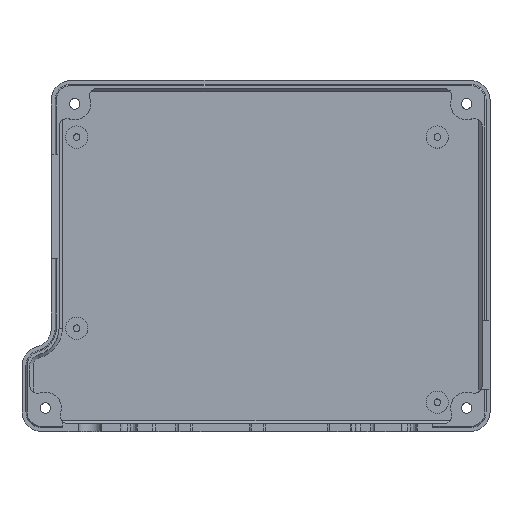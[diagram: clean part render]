
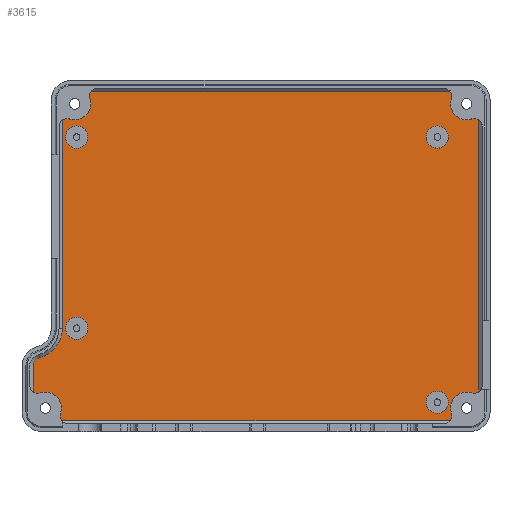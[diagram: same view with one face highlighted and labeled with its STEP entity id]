
A CAD part, top view. The second image highlights one B-rep face of the part: STEP entity #3615.
In plain terms, the highlighted planar face has unit normal (0, 0, 1).
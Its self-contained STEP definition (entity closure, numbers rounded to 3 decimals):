
#755=CARTESIAN_POINT('',(49.858,-38.672,-10.));
#767=DIRECTION('',(-1.,0.,0.));
#768=VECTOR('',#767,99.716);
#769=CARTESIAN_POINT('',(49.858,-38.672,-10.));
#770=LINE('',#769,#768);
#785=CARTESIAN_POINT('',(56.,36.737,-10.));
#786=DIRECTION('',(0.,0.,1.));
#787=DIRECTION('',(0.586,0.81,0.));
#788=AXIS2_PLACEMENT_3D('',#785,#786,#787);
#790=CARTESIAN_POINT('',(56.,-29.737,-10.));
#791=DIRECTION('',(0.,0.,1.));
#792=DIRECTION('',(-0.328,-0.945,0.));
#793=AXIS2_PLACEMENT_3D('',#790,#791,#792);
#795=CARTESIAN_POINT('',(48.237,-37.5,-10.));
#796=DIRECTION('',(0.,0.,1.));
#797=DIRECTION('',(0.81,-0.586,0.));
#798=AXIS2_PLACEMENT_3D('',#795,#796,#797);
#800=CARTESIAN_POINT('',(-48.237,-37.5,-10.));
#801=DIRECTION('',(0.,0.,1.));
#802=DIRECTION('',(-0.945,0.328,0.));
#803=AXIS2_PLACEMENT_3D('',#800,#801,#802);
#805=CARTESIAN_POINT('',(-56.,-29.737,-10.));
#806=DIRECTION('',(0.,0.,1.));
#807=DIRECTION('',(-0.586,-0.81,0.));
#808=AXIS2_PLACEMENT_3D('',#805,#806,#807);
#810=CARTESIAN_POINT('',(-48.5,36.737,-10.));
#811=DIRECTION('',(0.,0.,1.));
#812=DIRECTION('',(0.328,0.945,0.));
#813=AXIS2_PLACEMENT_3D('',#810,#811,#812);
#815=CARTESIAN_POINT('',(-40.739,44.5,-10.));
#816=DIRECTION('',(0.,0.,1.));
#817=DIRECTION('',(-0.81,0.586,0.));
#818=AXIS2_PLACEMENT_3D('',#815,#816,#817);
#820=CARTESIAN_POINT('',(48.237,44.5,-10.));
#821=DIRECTION('',(0.,0.,1.));
#822=DIRECTION('',(0.945,-0.328,0.));
#823=AXIS2_PLACEMENT_3D('',#820,#821,#822);
#825=CARTESIAN_POINT('',(46.5,-34.,-10.));
#826=DIRECTION('',(0.,0.,1.));
#827=DIRECTION('',(1.,0.,0.));
#828=AXIS2_PLACEMENT_3D('',#825,#826,#827);
#830=CARTESIAN_POINT('',(46.5,-34.,-10.));
#831=DIRECTION('',(0.,0.,1.));
#832=DIRECTION('',(-1.,0.,0.));
#833=AXIS2_PLACEMENT_3D('',#830,#831,#832);
#845=CARTESIAN_POINT('',(46.5,34.,-10.));
#846=DIRECTION('',(0.,0.,1.));
#847=DIRECTION('',(1.,0.,0.));
#848=AXIS2_PLACEMENT_3D('',#845,#846,#847);
#850=CARTESIAN_POINT('',(46.5,34.,-10.));
#851=DIRECTION('',(0.,0.,1.));
#852=DIRECTION('',(-1.,0.,0.));
#853=AXIS2_PLACEMENT_3D('',#850,#851,#852);
#865=CARTESIAN_POINT('',(-46.,33.986,-10.));
#866=DIRECTION('',(0.,0.,1.));
#867=DIRECTION('',(1.,0.,0.));
#868=AXIS2_PLACEMENT_3D('',#865,#866,#867);
#870=CARTESIAN_POINT('',(-46.,33.986,-10.));
#871=DIRECTION('',(0.,0.,1.));
#872=DIRECTION('',(-1.,0.,0.));
#873=AXIS2_PLACEMENT_3D('',#870,#871,#872);
#885=CARTESIAN_POINT('',(-46.,-15.014,-10.));
#886=DIRECTION('',(0.,0.,1.));
#887=DIRECTION('',(1.,0.,0.));
#888=AXIS2_PLACEMENT_3D('',#885,#886,#887);
#890=CARTESIAN_POINT('',(-46.,-15.014,-10.));
#891=DIRECTION('',(0.,0.,1.));
#892=DIRECTION('',(-1.,0.,0.));
#893=AXIS2_PLACEMENT_3D('',#890,#891,#892);
#1438=DIRECTION('',(0.,1.,0.));
#1439=VECTOR('',#1438,53.358);
#1440=CARTESIAN_POINT('',(-49.672,-15.,-10.));
#1441=LINE('',#1440,#1439);
#1455=CARTESIAN_POINT('',(-57.5,-15.,-10.));
#1456=DIRECTION('',(0.,0.,-1.));
#1457=DIRECTION('',(1.,0.,0.));
#1458=AXIS2_PLACEMENT_3D('',#1455,#1456,#1457);
#1485=CARTESIAN_POINT('',(-57.172,-31.358,-10.));
#1491=DIRECTION('',(0.,1.,0.));
#1492=VECTOR('',#1491,6.676);
#1493=CARTESIAN_POINT('',(-57.172,-31.358,-10.));
#1494=LINE('',#1493,#1492);
#1495=CARTESIAN_POINT('',(-55.,-24.682,-10.));
#1496=DIRECTION('',(0.,0.,-1.));
#1497=DIRECTION('',(-1.,0.,0.));
#1498=AXIS2_PLACEMENT_3D('',#1495,#1496,#1497);
#1522=CARTESIAN_POINT('',(-54.,-35.5,-10.));
#1523=DIRECTION('',(0.,0.,-1.));
#1524=DIRECTION('',(-0.328,0.945,0.));
#1525=AXIS2_PLACEMENT_3D('',#1522,#1523,#1524);
#1531=CARTESIAN_POINT('',(-46.502,42.5,-10.));
#1532=DIRECTION('',(0.,0.,-1.));
#1533=DIRECTION('',(0.945,0.328,0.));
#1534=AXIS2_PLACEMENT_3D('',#1531,#1532,#1533);
#1569=DIRECTION('',(1.,0.,0.));
#1570=VECTOR('',#1569,92.218);
#1571=CARTESIAN_POINT('',(-42.36,45.672,-10.));
#1572=LINE('',#1571,#1570);
#1577=CARTESIAN_POINT('',(-42.36,45.672,-10.));
#1587=CARTESIAN_POINT('',(54.,42.5,-10.));
#1588=DIRECTION('',(0.,0.,-1.));
#1589=DIRECTION('',(0.328,-0.945,0.));
#1590=AXIS2_PLACEMENT_3D('',#1587,#1588,#1589);
#1789=CARTESIAN_POINT('',(54.,-35.5,-10.));
#1790=DIRECTION('',(0.,0.,-1.));
#1791=DIRECTION('',(-0.945,-0.328,0.));
#1792=AXIS2_PLACEMENT_3D('',#1789,#1790,#1791);
#1798=CARTESIAN_POINT('',(57.172,38.358,-10.));
#1810=DIRECTION('',(0.,-1.,0.));
#1811=VECTOR('',#1810,69.716);
#1812=CARTESIAN_POINT('',(57.172,38.358,-10.));
#1813=LINE('',#1812,#1811);
#2554=VERTEX_POINT('',#1798);
#2555=CARTESIAN_POINT('',(55.344,38.627,-10.));
#2556=VERTEX_POINT('',#2555);
#2559=CARTESIAN_POINT('',(50.127,43.844,-10.));
#2560=CARTESIAN_POINT('',(49.858,45.672,-10.));
#2561=VERTEX_POINT('',#2559);
#2562=VERTEX_POINT('',#2560);
#2568=CARTESIAN_POINT('',(55.344,-31.627,-10.));
#2569=CARTESIAN_POINT('',(57.172,-31.358,-10.));
#2570=VERTEX_POINT('',#2568);
#2571=VERTEX_POINT('',#2569);
#2579=VERTEX_POINT('',#755);
#2580=CARTESIAN_POINT('',(50.127,-36.844,-10.));
#2581=VERTEX_POINT('',#2580);
#2584=CARTESIAN_POINT('',(-50.127,-36.844,-10.));
#2585=CARTESIAN_POINT('',(-49.858,-38.672,-10.));
#2586=VERTEX_POINT('',#2584);
#2587=VERTEX_POINT('',#2585);
#2597=VERTEX_POINT('',#1485);
#2598=CARTESIAN_POINT('',(-55.344,-31.627,-10.));
#2599=VERTEX_POINT('',#2598);
#2606=VERTEX_POINT('',#1577);
#2607=CARTESIAN_POINT('',(-42.628,43.844,-10.));
#2608=VERTEX_POINT('',#2607);
#2613=CARTESIAN_POINT('',(-57.172,-24.682,-10.));
#2614=VERTEX_POINT('',#2613);
#2617=CARTESIAN_POINT('',(-47.845,38.626,-10.));
#2618=VERTEX_POINT('',#2617);
#2957=CARTESIAN_POINT('',(49.35,-34.,-10.));
#2958=CARTESIAN_POINT('',(43.65,-34.,-10.));
#2959=VERTEX_POINT('',#2957);
#2960=VERTEX_POINT('',#2958);
#2965=CARTESIAN_POINT('',(49.35,34.,-10.));
#2966=CARTESIAN_POINT('',(43.65,34.,-10.));
#2967=VERTEX_POINT('',#2965);
#2968=VERTEX_POINT('',#2966);
#2973=CARTESIAN_POINT('',(-43.15,33.986,-10.));
#2974=CARTESIAN_POINT('',(-48.85,33.986,-10.));
#2975=VERTEX_POINT('',#2973);
#2976=VERTEX_POINT('',#2974);
#2981=CARTESIAN_POINT('',(-43.15,-15.014,-10.));
#2982=CARTESIAN_POINT('',(-48.85,-15.014,-10.));
#2983=VERTEX_POINT('',#2981);
#2984=VERTEX_POINT('',#2982);
#3033=CARTESIAN_POINT('',(-49.672,-15.,-10.));
#3034=CARTESIAN_POINT('',(-55.543,-22.58,-10.));
#3035=VERTEX_POINT('',#3033);
#3036=VERTEX_POINT('',#3034);
#3059=CARTESIAN_POINT('',(-49.672,38.358,-10.));
#3060=VERTEX_POINT('',#3059);
#3549=CARTESIAN_POINT('',(0.,0.,-10.));
#3550=DIRECTION('',(0.,0.,1.));
#3551=DIRECTION('',(-1.,0.,0.));
#3552=AXIS2_PLACEMENT_3D('',#3549,#3550,#3551);
#3553=PLANE('',#3552);
#3555=ORIENTED_EDGE('',*,*,#3554,.F.);
#3557=ORIENTED_EDGE('',*,*,#3556,.T.);
#3559=ORIENTED_EDGE('',*,*,#3558,.F.);
#3561=ORIENTED_EDGE('',*,*,#3560,.F.);
#3562=ORIENTED_EDGE('',*,*,#3507,.F.);
#3563=ORIENTED_EDGE('',*,*,#3525,.T.);
#3564=ORIENTED_EDGE('',*,*,#3535,.F.);
#3566=ORIENTED_EDGE('',*,*,#3565,.F.);
#3568=ORIENTED_EDGE('',*,*,#3567,.F.);
#3570=ORIENTED_EDGE('',*,*,#3569,.T.);
#3572=ORIENTED_EDGE('',*,*,#3571,.T.);
#3574=ORIENTED_EDGE('',*,*,#3573,.F.);
#3576=ORIENTED_EDGE('',*,*,#3575,.T.);
#3578=ORIENTED_EDGE('',*,*,#3577,.F.);
#3580=ORIENTED_EDGE('',*,*,#3579,.F.);
#3582=ORIENTED_EDGE('',*,*,#3581,.F.);
#3584=ORIENTED_EDGE('',*,*,#3583,.T.);
#3586=ORIENTED_EDGE('',*,*,#3585,.F.);
#3588=ORIENTED_EDGE('',*,*,#3587,.F.);
#3589=EDGE_LOOP('',(#3555,#3557,#3559,#3561,#3562,#3563,#3564,#3566,#3568,#3570,
#3572,#3574,#3576,#3578,#3580,#3582,#3584,#3586,#3588));
#3590=FACE_OUTER_BOUND('',#3589,.F.);
#3592=ORIENTED_EDGE('',*,*,#3591,.T.);
#3594=ORIENTED_EDGE('',*,*,#3593,.T.);
#3595=EDGE_LOOP('',(#3592,#3594));
#3596=FACE_BOUND('',#3595,.F.);
#3598=ORIENTED_EDGE('',*,*,#3597,.T.);
#3600=ORIENTED_EDGE('',*,*,#3599,.T.);
#3601=EDGE_LOOP('',(#3598,#3600));
#3602=FACE_BOUND('',#3601,.F.);
#3604=ORIENTED_EDGE('',*,*,#3603,.T.);
#3606=ORIENTED_EDGE('',*,*,#3605,.T.);
#3607=EDGE_LOOP('',(#3604,#3606));
#3608=FACE_BOUND('',#3607,.F.);
#3610=ORIENTED_EDGE('',*,*,#3609,.T.);
#3612=ORIENTED_EDGE('',*,*,#3611,.T.);
#3613=EDGE_LOOP('',(#3610,#3612));
#3614=FACE_BOUND('',#3613,.F.);
#789=CIRCLE('',#788,2.);
#794=CIRCLE('',#793,2.);
#799=CIRCLE('',#798,2.);
#804=CIRCLE('',#803,2.);
#809=CIRCLE('',#808,2.);
#814=CIRCLE('',#813,2.);
#819=CIRCLE('',#818,2.);
#824=CIRCLE('',#823,2.);
#829=CIRCLE('',#828,2.85);
#834=CIRCLE('',#833,2.85);
#849=CIRCLE('',#848,2.85);
#854=CIRCLE('',#853,2.85);
#869=CIRCLE('',#868,2.85);
#874=CIRCLE('',#873,2.85);
#889=CIRCLE('',#888,2.85);
#894=CIRCLE('',#893,2.85);
#1459=CIRCLE('',#1458,7.828);
#1499=CIRCLE('',#1498,2.172);
#1526=CIRCLE('',#1525,4.1);
#1535=CIRCLE('',#1534,4.1);
#1591=CIRCLE('',#1590,4.1);
#1793=CIRCLE('',#1792,4.1);
#3507=EDGE_CURVE('',#2579,#2581,#799,.T.);
#3525=EDGE_CURVE('',#2579,#2587,#770,.T.);
#3535=EDGE_CURVE('',#2586,#2587,#804,.T.);
#3554=EDGE_CURVE('',#2554,#2556,#789,.T.);
#3556=EDGE_CURVE('',#2554,#2571,#1813,.T.);
#3558=EDGE_CURVE('',#2570,#2571,#794,.T.);
#3560=EDGE_CURVE('',#2581,#2570,#1793,.T.);
#3565=EDGE_CURVE('',#2599,#2586,#1526,.T.);
#3567=EDGE_CURVE('',#2597,#2599,#809,.T.);
#3569=EDGE_CURVE('',#2597,#2614,#1494,.T.);
#3571=EDGE_CURVE('',#2614,#3036,#1499,.T.);
#3573=EDGE_CURVE('',#3035,#3036,#1459,.T.);
#3575=EDGE_CURVE('',#3035,#3060,#1441,.T.);
#3577=EDGE_CURVE('',#2618,#3060,#814,.T.);
#3579=EDGE_CURVE('',#2608,#2618,#1535,.T.);
#3581=EDGE_CURVE('',#2606,#2608,#819,.T.);
#3583=EDGE_CURVE('',#2606,#2562,#1572,.T.);
#3585=EDGE_CURVE('',#2561,#2562,#824,.T.);
#3587=EDGE_CURVE('',#2556,#2561,#1591,.T.);
#3591=EDGE_CURVE('',#2959,#2960,#829,.T.);
#3593=EDGE_CURVE('',#2960,#2959,#834,.T.);
#3597=EDGE_CURVE('',#2967,#2968,#849,.T.);
#3599=EDGE_CURVE('',#2968,#2967,#854,.T.);
#3603=EDGE_CURVE('',#2975,#2976,#869,.T.);
#3605=EDGE_CURVE('',#2976,#2975,#874,.T.);
#3609=EDGE_CURVE('',#2983,#2984,#889,.T.);
#3611=EDGE_CURVE('',#2984,#2983,#894,.T.);
#3615=ADVANCED_FACE('',(#3590,#3596,#3602,#3608,#3614),#3553,.T.);
